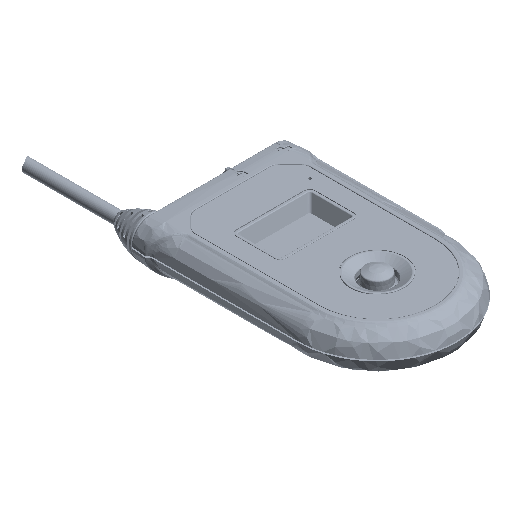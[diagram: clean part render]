
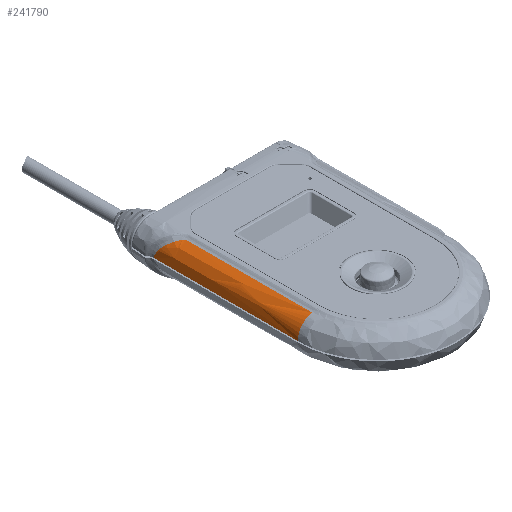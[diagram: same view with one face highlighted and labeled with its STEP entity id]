
A CAD part, isometric view. The second image highlights one B-rep face of the part: STEP entity #241790.
In plain terms, the highlighted face is a extrusion surface.
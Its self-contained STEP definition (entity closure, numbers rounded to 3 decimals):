
#240332 = VERTEX_POINT('',#240333);
#240333 = CARTESIAN_POINT('',(54.857,-23.184,
    8.085));
#240352 = VERTEX_POINT('',#240353);
#240353 = CARTESIAN_POINT('',(58.845,-27.908,
    4.46));
#240360 = EDGE_CURVE('',#240332,#240352,#240361,.T.);
#240361 = B_SPLINE_CURVE_WITH_KNOTS('',3,(#240362,#240363,#240364,
    #240365,#240366,#240367),.UNSPECIFIED.,.F.,.F.,(4,2,4),(0.,0.5,
    1.),.UNSPECIFIED.);
#240362 = CARTESIAN_POINT('',(54.857,-23.184,
    8.085));
#240363 = CARTESIAN_POINT('',(55.677,-24.036,
    7.783));
#240364 = CARTESIAN_POINT('',(56.43,-24.885,
    7.341));
#240365 = CARTESIAN_POINT('',(57.784,-26.51,
    6.155));
#240366 = CARTESIAN_POINT('',(58.386,-27.288,
    5.415));
#240367 = CARTESIAN_POINT('',(58.845,-27.908,
    4.46));
#240394 = VERTEX_POINT('',#240395);
#240395 = CARTESIAN_POINT('',(54.344,-22.013,
    8.253));
#240422 = EDGE_CURVE('',#240394,#240332,#240423,.T.);
#240423 = B_SPLINE_CURVE_WITH_KNOTS('',3,(#240424,#240425,#240426,
    #240427,#240428,#240429,#240430,#240431,#240432,#240433),
  .UNSPECIFIED.,.F.,.F.,(4,3,3,4),(0.,0.298,0.58
    ,1.),.UNSPECIFIED.);
#240424 = CARTESIAN_POINT('',(54.344,-22.013,
    8.253));
#240425 = CARTESIAN_POINT('',(54.344,-22.145,
    8.253));
#240426 = CARTESIAN_POINT('',(54.361,-22.277,
    8.248));
#240427 = CARTESIAN_POINT('',(54.395,-22.404,
    8.238));
#240428 = CARTESIAN_POINT('',(54.427,-22.524,
    8.228));
#240429 = CARTESIAN_POINT('',(54.475,-22.64,
    8.214));
#240430 = CARTESIAN_POINT('',(54.533,-22.748,
    8.196));
#240431 = CARTESIAN_POINT('',(54.62,-22.909,
    8.168));
#240432 = CARTESIAN_POINT('',(54.733,-23.055,
    8.131));
#240433 = CARTESIAN_POINT('',(54.857,-23.184,
    8.085));
#240464 = EDGE_CURVE('',#240465,#240394,#240467,.T.);
#240465 = VERTEX_POINT('',#240466);
#240466 = CARTESIAN_POINT('',(54.346,23.582,
    8.252));
#240467 = B_SPLINE_CURVE_WITH_KNOTS('',3,(#240468,#240469,#240470,
    #240471,#240472,#240473,#240474,#240475,#240476,#240477,#240478,
    #240479,#240480,#240481,#240482,#240483,#240484,#240485,#240486),
  .UNSPECIFIED.,.F.,.F.,(4,3,3,3,3,3,4),(0.,0.22,
    0.403,0.587,0.771,0.954,1.),
  .UNSPECIFIED.);
#240468 = CARTESIAN_POINT('',(54.346,23.582,
    8.252));
#240469 = CARTESIAN_POINT('',(54.389,20.243,
    8.24));
#240470 = CARTESIAN_POINT('',(54.344,16.903,
    8.253));
#240471 = CARTESIAN_POINT('',(54.344,13.564,
    8.253));
#240472 = CARTESIAN_POINT('',(54.344,10.773,
    8.253));
#240473 = CARTESIAN_POINT('',(54.344,7.983,
    8.253));
#240474 = CARTESIAN_POINT('',(54.344,5.193,
    8.253));
#240475 = CARTESIAN_POINT('',(54.344,2.402,
    8.253));
#240476 = CARTESIAN_POINT('',(54.344,-0.388,
    8.253));
#240477 = CARTESIAN_POINT('',(54.344,-3.179,
    8.253));
#240478 = CARTESIAN_POINT('',(54.344,-5.969,
    8.253));
#240479 = CARTESIAN_POINT('',(54.344,-8.759,
    8.253));
#240480 = CARTESIAN_POINT('',(54.344,-11.55,
    8.253));
#240481 = CARTESIAN_POINT('',(54.344,-14.34,
    8.253));
#240482 = CARTESIAN_POINT('',(54.344,-17.13,
    8.253));
#240483 = CARTESIAN_POINT('',(54.344,-19.921,
    8.253));
#240484 = CARTESIAN_POINT('',(54.344,-20.618,
    8.253));
#240485 = CARTESIAN_POINT('',(54.344,-21.316,
    8.253));
#240486 = CARTESIAN_POINT('',(54.344,-22.013,
    8.253));
#241790 = ADVANCED_FACE('',(#241791),#241824,.T.);
#241791 = FACE_BOUND('',#241792,.T.);
#241792 = EDGE_LOOP('',(#241793,#241807,#241814,#241815,#241816,#241817)
  );
#241793 = ORIENTED_EDGE('',*,*,#241794,.T.);
#241794 = EDGE_CURVE('',#241795,#241797,#241799,.T.);
#241795 = VERTEX_POINT('',#241796);
#241796 = CARTESIAN_POINT('',(59.537,-28.866,
    1.85));
#241797 = VERTEX_POINT('',#241798);
#241798 = CARTESIAN_POINT('',(59.537,23.577,
    1.85));
#241799 = B_SPLINE_CURVE_WITH_KNOTS('',3,(#241800,#241801,#241802,
    #241803,#241804,#241805,#241806),.UNSPECIFIED.,.F.,.F.,(4,3,4),(
    0.,0.267,1.),.UNSPECIFIED.);
#241800 = CARTESIAN_POINT('',(59.537,-28.866,
    1.85));
#241801 = CARTESIAN_POINT('',(59.537,-24.192,
    1.85));
#241802 = CARTESIAN_POINT('',(59.537,-19.518,
    1.85));
#241803 = CARTESIAN_POINT('',(59.537,-14.844,
    1.85));
#241804 = CARTESIAN_POINT('',(59.537,-2.037,
    1.85));
#241805 = CARTESIAN_POINT('',(59.537,10.771,
    1.85));
#241806 = CARTESIAN_POINT('',(59.537,23.578,
    1.85));
#241807 = ORIENTED_EDGE('',*,*,#241808,.T.);
#241808 = EDGE_CURVE('',#241797,#240465,#241809,.T.);
#241809 = ( BOUNDED_CURVE() B_SPLINE_CURVE(3,(#241810,#241811,#241812,
#241813),.UNSPECIFIED.,.F.,.F.) B_SPLINE_CURVE_WITH_KNOTS((4,4),(0.
,1.),.PIECEWISE_BEZIER_KNOTS.) CURVE() GEOMETRIC_REPRESENTATION_ITEM() 
RATIONAL_B_SPLINE_CURVE((1.,0.879,0.879,1.)) 
REPRESENTATION_ITEM('') );
#241810 = CARTESIAN_POINT('',(59.537,23.578,
    1.85));
#241811 = CARTESIAN_POINT('',(59.319,23.578,
    4.967));
#241812 = CARTESIAN_POINT('',(57.351,23.58,
    7.395));
#241813 = CARTESIAN_POINT('',(54.346,23.582,
    8.252));
#241814 = ORIENTED_EDGE('',*,*,#240464,.T.);
#241815 = ORIENTED_EDGE('',*,*,#240422,.T.);
#241816 = ORIENTED_EDGE('',*,*,#240360,.T.);
#241817 = ORIENTED_EDGE('',*,*,#241818,.T.);
#241818 = EDGE_CURVE('',#240352,#241795,#241819,.T.);
#241819 = B_SPLINE_CURVE_WITH_KNOTS('',3,(#241820,#241821,#241822,
    #241823),.UNSPECIFIED.,.F.,.F.,(4,4),(0.,1.),
  .PIECEWISE_BEZIER_KNOTS.);
#241820 = CARTESIAN_POINT('',(58.845,-27.908,
    4.46));
#241821 = CARTESIAN_POINT('',(59.21,-28.4,
    3.703));
#241822 = CARTESIAN_POINT('',(59.47,-28.771,
    2.812));
#241823 = CARTESIAN_POINT('',(59.537,-28.866,
    1.85));
#241824 = SURFACE_OF_LINEAR_EXTRUSION('',#241825,#241830);
#241825 = CIRCLE('',#241826,7.178);
#241826 = AXIS2_PLACEMENT_3D('',#241827,#241828,#241829);
#241827 = CARTESIAN_POINT('',(52.377,23.584,
    1.349));
#241828 = DIRECTION('',(-0.001,-1.,
    0.));
#241829 = DIRECTION('',(-0.505,0.,
    -0.863));
#241830 = VECTOR('',#241831,1.);
#241831 = DIRECTION('',(0.,-1.,0.));
